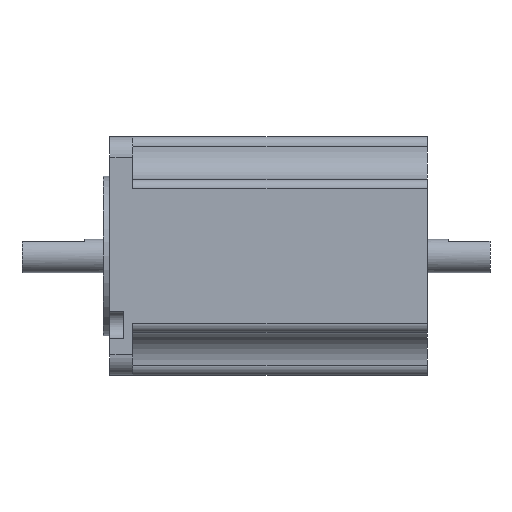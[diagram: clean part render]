
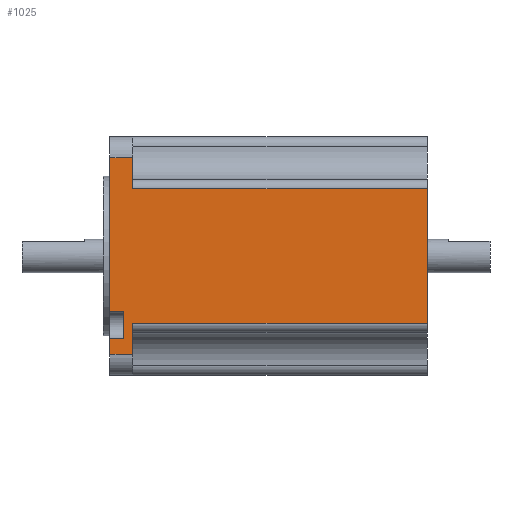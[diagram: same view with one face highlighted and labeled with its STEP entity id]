
A CAD part, left-side view. The second image highlights one B-rep face of the part: STEP entity #1025.
In plain terms, the highlighted planar face has unit normal (-1, 0, 0).
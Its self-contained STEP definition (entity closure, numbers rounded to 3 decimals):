
#7 = ORIENTED_EDGE ( 'NONE', *, *, #1209, .F. ) ;
#60 = VECTOR ( 'NONE', #2201, 1000. ) ;
#92 = LINE ( 'NONE', #549, #500 ) ;
#148 = LINE ( 'NONE', #190, #2138 ) ;
#150 = CARTESIAN_POINT ( 'NONE',  ( 0., -5.5, -4.93 ) ) ;
#184 = EDGE_CURVE ( 'NONE', #2432, #327, #1350, .T. ) ;
#190 = CARTESIAN_POINT ( 'NONE',  ( 0., 0., 0. ) ) ;
#206 = ORIENTED_EDGE ( 'NONE', *, *, #506, .T. ) ;
#209 = LINE ( 'NONE', #2065, #2332 ) ;
#278 = VERTEX_POINT ( 'NONE', #442 ) ;
#281 = VERTEX_POINT ( 'NONE', #2239 ) ;
#306 = LINE ( 'NONE', #373, #1195 ) ;
#327 = VERTEX_POINT ( 'NONE', #1067 ) ;
#347 = CARTESIAN_POINT ( 'NONE',  ( 0., 0., -48.2 ) ) ;
#361 = FACE_OUTER_BOUND ( 'NONE', #450, .T. ) ;
#373 = CARTESIAN_POINT ( 'NONE',  ( 0., -5.5, -57. ) ) ;
#442 = CARTESIAN_POINT ( 'NONE',  ( 0., -5.5, -52.07 ) ) ;
#450 = EDGE_LOOP ( 'NONE', ( #1096, #890, #7, #696, #2094, #2264, #2457, #632, #206, #1576, #2134, #1449 ) ) ;
#466 = LINE ( 'NONE', #2210, #2524 ) ;
#500 = VECTOR ( 'NONE', #934, 1000. ) ;
#506 = EDGE_CURVE ( 'NONE', #2432, #1957, #1646, .T. ) ;
#520 = EDGE_CURVE ( 'NONE', #1936, #281, #1582, .T. ) ;
#527 = LINE ( 'NONE', #808, #2105 ) ;
#549 = CARTESIAN_POINT ( 'NONE',  ( 0., -76., 0. ) ) ;
#602 = VECTOR ( 'NONE', #1760, 1000. ) ;
#632 = ORIENTED_EDGE ( 'NONE', *, *, #184, .F. ) ;
#685 = EDGE_CURVE ( 'NONE', #278, #2370, #209, .T. ) ;
#696 = ORIENTED_EDGE ( 'NONE', *, *, #1147, .F. ) ;
#699 = DIRECTION ( 'NONE',  ( 0., -1., 0. ) ) ;
#808 = CARTESIAN_POINT ( 'NONE',  ( 0., -5.5, -12.4 ) ) ;
#818 = VECTOR ( 'NONE', #1811, 1000. ) ;
#843 = EDGE_CURVE ( 'NONE', #2279, #278, #306, .T. ) ;
#873 = DIRECTION ( 'NONE',  ( 0., 1., 0. ) ) ;
#878 = EDGE_CURVE ( 'NONE', #2370, #1957, #148, .T. ) ;
#888 = CARTESIAN_POINT ( 'NONE',  ( 0., -76., -12.4 ) ) ;
#890 = ORIENTED_EDGE ( 'NONE', *, *, #922, .F. ) ;
#922 = EDGE_CURVE ( 'NONE', #1357, #1401, #92, .T. ) ;
#934 = DIRECTION ( 'NONE',  ( 0., 0., -1. ) ) ;
#944 = CARTESIAN_POINT ( 'NONE',  ( 0., -5.5, -12.4 ) ) ;
#964 = VERTEX_POINT ( 'NONE', #944 ) ;
#1010 = DIRECTION ( 'NONE',  ( 0., -1., 0. ) ) ;
#1019 = CARTESIAN_POINT ( 'NONE',  ( 0., -3.4, -48.2 ) ) ;
#1025 = ADVANCED_FACE ( 'NONE', ( #361 ), #2162, .T. ) ;
#1060 = VECTOR ( 'NONE', #1373, 1000. ) ;
#1067 = CARTESIAN_POINT ( 'NONE',  ( 0., -3.4, -41.8 ) ) ;
#1096 = ORIENTED_EDGE ( 'NONE', *, *, #1345, .T. ) ;
#1126 = EDGE_CURVE ( 'NONE', #2238, #281, #1176, .T. ) ;
#1147 = EDGE_CURVE ( 'NONE', #1936, #964, #1640, .T. ) ;
#1176 = LINE ( 'NONE', #1196, #1293 ) ;
#1195 = VECTOR ( 'NONE', #2570, 1000. ) ;
#1196 = CARTESIAN_POINT ( 'NONE',  ( 0., 0., 0. ) ) ;
#1207 = CARTESIAN_POINT ( 'NONE',  ( 0., -3.4, -48.2 ) ) ;
#1209 = EDGE_CURVE ( 'NONE', #964, #1357, #527, .T. ) ;
#1212 = EDGE_CURVE ( 'NONE', #327, #2238, #466, .T. ) ;
#1293 = VECTOR ( 'NONE', #1388, 1000. ) ;
#1301 = CARTESIAN_POINT ( 'NONE',  ( 0., 0., -41.8 ) ) ;
#1345 = EDGE_CURVE ( 'NONE', #2279, #1401, #2518, .T. ) ;
#1350 = LINE ( 'NONE', #1019, #818 ) ;
#1357 = VERTEX_POINT ( 'NONE', #888 ) ;
#1358 = CARTESIAN_POINT ( 'NONE',  ( 0., -3.4, -48.2 ) ) ;
#1373 = DIRECTION ( 'NONE',  ( 0., 1., 0. ) ) ;
#1388 = DIRECTION ( 'NONE',  ( 0., 0., 1. ) ) ;
#1401 = VERTEX_POINT ( 'NONE', #1457 ) ;
#1449 = ORIENTED_EDGE ( 'NONE', *, *, #843, .F. ) ;
#1457 = CARTESIAN_POINT ( 'NONE',  ( 0., -76., -44.6 ) ) ;
#1518 = AXIS2_PLACEMENT_3D ( 'NONE', #1945, #1938, #2362 ) ;
#1576 = ORIENTED_EDGE ( 'NONE', *, *, #878, .F. ) ;
#1582 = LINE ( 'NONE', #2572, #1060 ) ;
#1591 = CARTESIAN_POINT ( 'NONE',  ( 0., -5.5, -12.4 ) ) ;
#1640 = LINE ( 'NONE', #1591, #60 ) ;
#1646 = LINE ( 'NONE', #1358, #602 ) ;
#1760 = DIRECTION ( 'NONE',  ( 0., 1., 0. ) ) ;
#1811 = DIRECTION ( 'NONE',  ( 0., 0., 1. ) ) ;
#1868 = CARTESIAN_POINT ( 'NONE',  ( 0., -5.5, -44.6 ) ) ;
#1912 = CARTESIAN_POINT ( 'NONE',  ( 0., -5.5, -44.6 ) ) ;
#1936 = VERTEX_POINT ( 'NONE', #150 ) ;
#1938 = DIRECTION ( 'NONE',  ( -1., 0., 0. ) ) ;
#1945 = CARTESIAN_POINT ( 'NONE',  ( 0., -113., 0. ) ) ;
#1957 = VERTEX_POINT ( 'NONE', #347 ) ;
#1969 = VECTOR ( 'NONE', #699, 1000. ) ;
#2065 = CARTESIAN_POINT ( 'NONE',  ( 0., -6., -52.07 ) ) ;
#2094 = ORIENTED_EDGE ( 'NONE', *, *, #520, .T. ) ;
#2105 = VECTOR ( 'NONE', #1010, 1000. ) ;
#2134 = ORIENTED_EDGE ( 'NONE', *, *, #685, .F. ) ;
#2138 = VECTOR ( 'NONE', #2382, 1000. ) ;
#2162 = PLANE ( 'NONE',  #1518 ) ;
#2201 = DIRECTION ( 'NONE',  ( 0., 0., -1. ) ) ;
#2210 = CARTESIAN_POINT ( 'NONE',  ( 0., -3.4, -41.8 ) ) ;
#2220 = DIRECTION ( 'NONE',  ( 0., 1., 0. ) ) ;
#2238 = VERTEX_POINT ( 'NONE', #1301 ) ;
#2239 = CARTESIAN_POINT ( 'NONE',  ( 0., 0., -4.93 ) ) ;
#2264 = ORIENTED_EDGE ( 'NONE', *, *, #1126, .F. ) ;
#2279 = VERTEX_POINT ( 'NONE', #1912 ) ;
#2332 = VECTOR ( 'NONE', #873, 1000. ) ;
#2343 = CARTESIAN_POINT ( 'NONE',  ( 0., 0., -52.07 ) ) ;
#2362 = DIRECTION ( 'NONE',  ( 0., 0., 1. ) ) ;
#2370 = VERTEX_POINT ( 'NONE', #2343 ) ;
#2382 = DIRECTION ( 'NONE',  ( 0., 0., 1. ) ) ;
#2432 = VERTEX_POINT ( 'NONE', #1207 ) ;
#2457 = ORIENTED_EDGE ( 'NONE', *, *, #1212, .F. ) ;
#2518 = LINE ( 'NONE', #1868, #1969 ) ;
#2524 = VECTOR ( 'NONE', #2220, 1000. ) ;
#2570 = DIRECTION ( 'NONE',  ( 0., 0., -1. ) ) ;
#2572 = CARTESIAN_POINT ( 'NONE',  ( 0., -6., -4.93 ) ) ;
